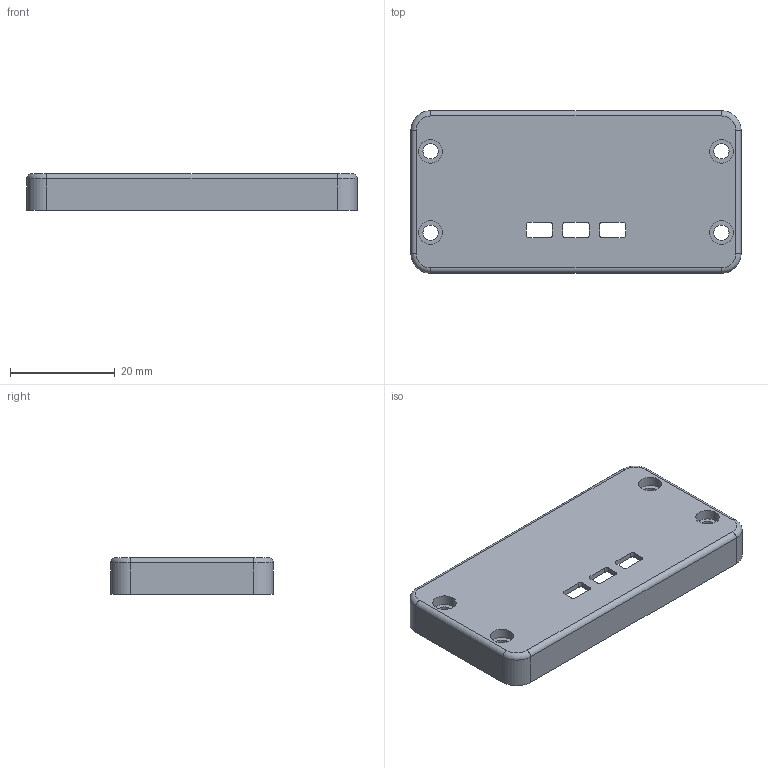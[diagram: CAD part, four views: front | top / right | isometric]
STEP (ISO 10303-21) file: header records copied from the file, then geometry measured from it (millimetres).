
FILE_DESCRIPTION(('FreeCAD Model'),'2;1');
FILE_NAME('Open CASCADE Shape Model','2024-02-07T14:04:01',(''),(''), 'Open CASCADE STEP processor 7.6','FreeCAD','Unknown');
FILE_SCHEMA(('AUTOMOTIVE_DESIGN { 1 0 10303 214 1 1 1 1 }'));
Length unit declared in the file: millimetre
Products named in the file (1): upper
Bounding box: 63 x 31 x 7 mm (x, y, z)
Volume: 5911.3 mm3; surface area: 6119.3 mm2
Topology: 1 solids, 1 shells, 108 faces, 279 edges, 178 vertices
Faces by surface type: plane 60, cylinder 40, torus 4, cone 4
Full cylindrical faces by diameter (mm): 2.9 x4, 4.5 x4
Entity records: 7008 total; most frequent: CARTESIAN_POINT 1280, DIRECTION 1103, LINE 637, VECTOR 637, ORIENTED_EDGE 558, PCURVE 558, DEFINITIONAL_REPRESENTATION 558, EDGE_CURVE 279
